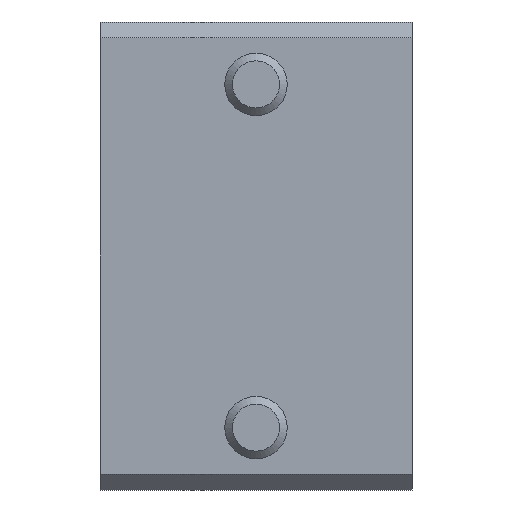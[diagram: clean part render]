
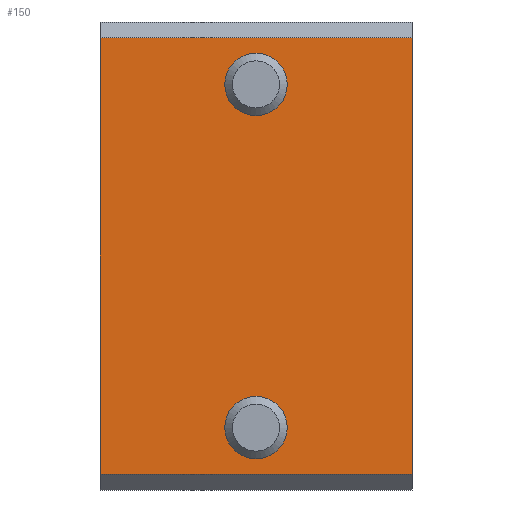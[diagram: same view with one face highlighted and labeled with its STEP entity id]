
A CAD part, left-side view. The second image highlights one B-rep face of the part: STEP entity #150.
In plain terms, the highlighted planar face has unit normal (-1, 0, 0).
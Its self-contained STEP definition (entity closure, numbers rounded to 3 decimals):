
#150=ADVANCED_FACE('',(#328,#329,#330),#331,.F.);
#328=FACE_OUTER_BOUND('',#612,.T.);
#329=FACE_BOUND('',#613,.T.);
#330=FACE_BOUND('',#614,.T.);
#331=PLANE('',#615);
#612=EDGE_LOOP('',(#939,#940,#941,#942));
#613=EDGE_LOOP('',(#943));
#614=EDGE_LOOP('',(#944));
#615=AXIS2_PLACEMENT_3D('',#945,#946,#947);
#939=ORIENTED_EDGE('',*,*,#1403,.T.);
#940=ORIENTED_EDGE('',*,*,#1404,.F.);
#941=ORIENTED_EDGE('',*,*,#1405,.F.);
#942=ORIENTED_EDGE('',*,*,#1406,.T.);
#943=ORIENTED_EDGE('',*,*,#1396,.F.);
#944=ORIENTED_EDGE('',*,*,#1407,.F.);
#945=CARTESIAN_POINT('',(0.0,10.0,-7.0));
#946=DIRECTION('',(1.0,0.0,0.0));
#947=DIRECTION('',(0.0,1.0,0.0));
#1396=EDGE_CURVE('',#1671,#1671,#1672,.T.);
#1403=EDGE_CURVE('',#1682,#1683,#1684,.T.);
#1404=EDGE_CURVE('',#1685,#1683,#1686,.T.);
#1405=EDGE_CURVE('',#1687,#1685,#1688,.T.);
#1406=EDGE_CURVE('',#1687,#1682,#1689,.T.);
#1407=EDGE_CURVE('',#1690,#1690,#1691,.T.);
#1671=VERTEX_POINT('',#2082);
#1672=CIRCLE('',#2083,1.0);
#1682=VERTEX_POINT('',#2093);
#1683=VERTEX_POINT('',#2094);
#1684=LINE('',#2095,#2096);
#1685=VERTEX_POINT('',#2097);
#1686=LINE('',#2098,#2099);
#1687=VERTEX_POINT('',#2100);
#1688=LINE('',#2101,#2102);
#1689=LINE('',#2103,#2104);
#1690=VERTEX_POINT('',#2105);
#1691=CIRCLE('',#2106,1.0);
#2082=CARTESIAN_POINT('',(0.0,5.0,4.5));
#2083=AXIS2_PLACEMENT_3D('',#2378,#2379,#2380);
#2093=CARTESIAN_POINT('',(0.0,0.0,-7.0));
#2094=CARTESIAN_POINT('',(0.0,0.0,7.0));
#2095=CARTESIAN_POINT('',(0.0,0.0,-7.0));
#2096=VECTOR('',#2390,1.0);
#2097=CARTESIAN_POINT('',(0.0,10.0,7.0));
#2098=CARTESIAN_POINT('',(0.0,10.0,7.0));
#2099=VECTOR('',#2391,1.0);
#2100=CARTESIAN_POINT('',(0.0,10.0,-7.0));
#2101=CARTESIAN_POINT('',(0.0,10.0,-7.0));
#2102=VECTOR('',#2392,1.0);
#2103=CARTESIAN_POINT('',(0.0,10.0,-7.0));
#2104=VECTOR('',#2393,1.0);
#2105=CARTESIAN_POINT('',(0.0,5.0,-6.5));
#2106=AXIS2_PLACEMENT_3D('',#2394,#2395,#2396);
#2378=CARTESIAN_POINT('',(0.0,5.0,5.5));
#2379=DIRECTION('',(-1.0,0.0,0.0));
#2380=DIRECTION('',(0.0,0.0,-1.0));
#2390=DIRECTION('',(0.0,0.0,1.0));
#2391=DIRECTION('',(0.0,-1.0,0.0));
#2392=DIRECTION('',(0.0,0.0,1.0));
#2393=DIRECTION('',(0.0,-1.0,0.0));
#2394=CARTESIAN_POINT('',(0.0,5.0,-5.5));
#2395=DIRECTION('',(-1.0,0.0,0.0));
#2396=DIRECTION('',(0.0,0.0,-1.0));
